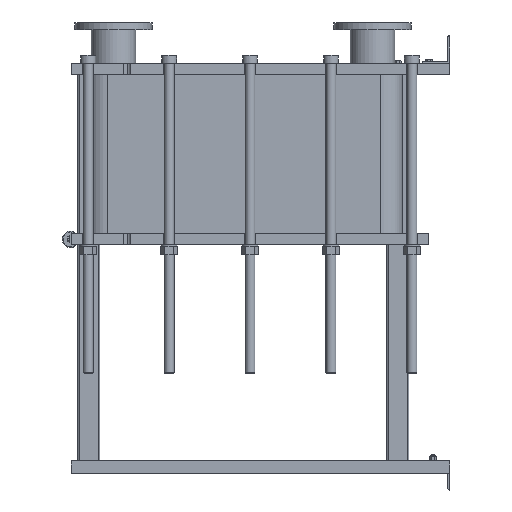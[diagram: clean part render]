
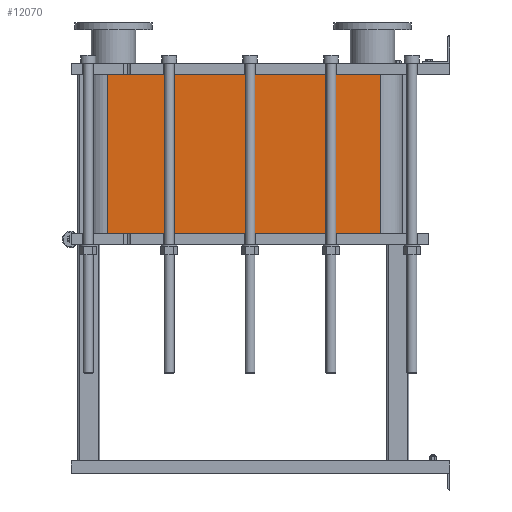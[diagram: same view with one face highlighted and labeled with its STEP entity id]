
A CAD part, left-side view. The second image highlights one B-rep face of the part: STEP entity #12070.
In plain terms, the highlighted planar face has unit normal (-1, 0, 0).
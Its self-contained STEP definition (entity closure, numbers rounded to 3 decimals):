
#1064=LINE('',#21140,#2164);
#1065=LINE('',#21144,#2165);
#1066=LINE('',#21146,#2166);
#1067=LINE('',#21147,#2167);
#2164=VECTOR('',#15790,10.);
#2165=VECTOR('',#15795,10.);
#2166=VECTOR('',#15796,10.);
#2167=VECTOR('',#15797,10.);
#3304=FACE_OUTER_BOUND('',#4091,.T.);
#4091=EDGE_LOOP('',(#9793,#9794,#9795,#9796));
#5677=VERTEX_POINT('',#21137);
#5678=VERTEX_POINT('',#21139);
#5679=VERTEX_POINT('',#21143);
#5680=VERTEX_POINT('',#21145);
#7118=EDGE_CURVE('',#5678,#5677,#1064,.T.);
#7120=EDGE_CURVE('',#5677,#5679,#1065,.T.);
#7121=EDGE_CURVE('',#5680,#5679,#1066,.T.);
#7122=EDGE_CURVE('',#5680,#5678,#1067,.T.);
#9793=ORIENTED_EDGE('',*,*,#7120,.T.);
#9794=ORIENTED_EDGE('',*,*,#7121,.F.);
#9795=ORIENTED_EDGE('',*,*,#7122,.T.);
#9796=ORIENTED_EDGE('',*,*,#7118,.T.);
#11441=PLANE('',#13191);
#12070=ADVANCED_FACE('',(#3304),#11441,.T.);
#13191=AXIS2_PLACEMENT_3D('',#21142,#15793,#15794);
#15790=DIRECTION('',(0.,0.,-1.));
#15793=DIRECTION('center_axis',(-1.,0.,0.));
#15794=DIRECTION('ref_axis',(0.,1.,0.));
#15795=DIRECTION('',(0.,-1.,0.));
#15796=DIRECTION('',(0.,0.,-1.));
#15797=DIRECTION('',(0.,1.,0.));
#21137=CARTESIAN_POINT('',(-248.152,1243.818,-579.6));
#21139=CARTESIAN_POINT('',(-248.152,1243.818,0.));
#21140=CARTESIAN_POINT('',(-248.152,1243.818,0.));
#21142=CARTESIAN_POINT('Origin',(-248.152,251.818,0.));
#21143=CARTESIAN_POINT('',(-248.152,251.818,-579.6));
#21144=CARTESIAN_POINT('',(-248.152,499.818,-579.6));
#21145=CARTESIAN_POINT('',(-248.152,251.818,0.));
#21146=CARTESIAN_POINT('',(-248.152,251.818,0.));
#21147=CARTESIAN_POINT('',(-248.152,251.818,0.));
